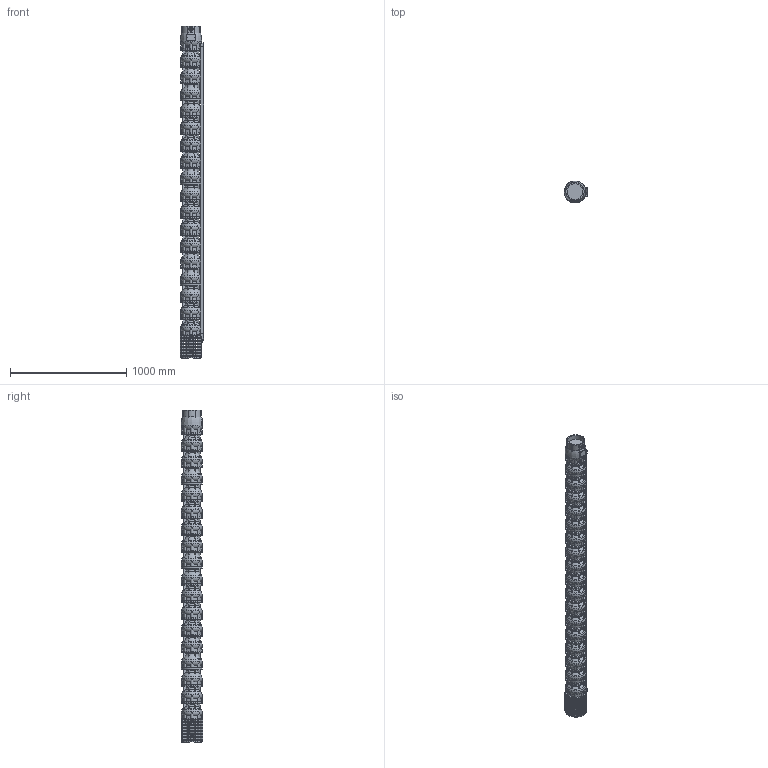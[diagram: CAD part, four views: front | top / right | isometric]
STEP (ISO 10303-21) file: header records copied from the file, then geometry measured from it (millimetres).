
FILE_DESCRIPTION(/* description */ ('Unknown'),/* implementation_level */ '2;1');
FILE_NAME(/* name */ 'VSI134-17_WR_M8-50_DLE',/* time_stamp */ '2023-09-14T14:43:23+02:00',/* author */ ('Unknown'),/* organization */ ('Unknown'),/* preprocessor_version */ 'ST-DEVELOPER v18.102',/* originating_system */ 'Solid Edge',/* authorisation */ 'Unknown');
FILE_SCHEMA (('AUTOMOTIVE_DESIGN {1 0 10303 214 3 1 1}'));
Products named in the file (11): VSI134-17_WR_M8-50_DLE; VSI134_testata; VSI134_diffusore; VSI134_supporto_8×8; VSI134_filtro_A; VSI134_filtro_B; VSI134_terminale_top_copricavo_basso; VSI134_terminale_bottom_copricavo_basso; LOW 134-17; M5X8_UNI7687; VSI134_giunto_8×8
Assembly tree (35 placements, depth 2):
  VSI134-17_WR_M8-50_DLE
    VSI134_testata
    VSI134_diffusore  x17
    VSI134_supporto_8×8
    VSI134_filtro_A
    VSI134_filtro_B
    VSI134_terminale_top_copricavo_basso
    VSI134_terminale_bottom_copricavo_basso
    LOW 134-17
    M5X8_UNI7687  x10
    VSI134_giunto_8×8
Bounding box: 201.57 x 183.52 x 2862 mm (x, y, z)
Volume: 53119989 mm3; surface area: 3805768.3 mm2
Topology: 74 solids, 76 shells, 5285 faces, 14933 edges, 9975 vertices
Faces by surface type: plane 3723, torus 785, cylinder 666, cone 68, bspline 31, sphere 12
Full cylindrical faces by diameter (mm): 2.4 x2, 3 x2, 4.2 x16, 5 x10, 5.5 x8, 26 x1, 44 x1, 69 x1, 74 x1, 98 x1, 135.472 x1, 157 x1, 182 x18
Entity records: 85593 total; most frequent: CARTESIAN_POINT 18368, ORIENTED_EDGE 14056, DIRECTION 13500, EDGE_CURVE 7028, VERTEX_POINT 4730, AXIS2_PLACEMENT_3D 4601, LINE 4298, VECTOR 4298
